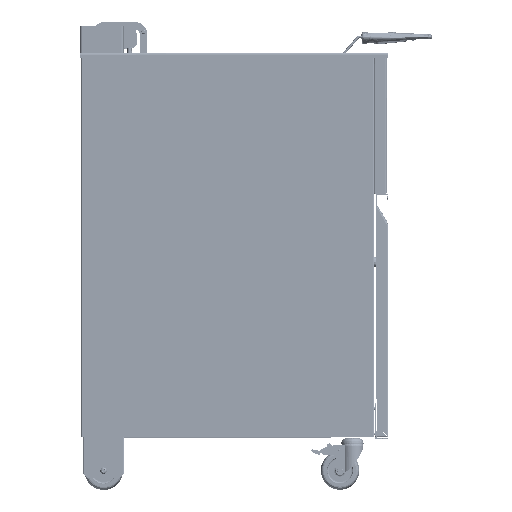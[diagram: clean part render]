
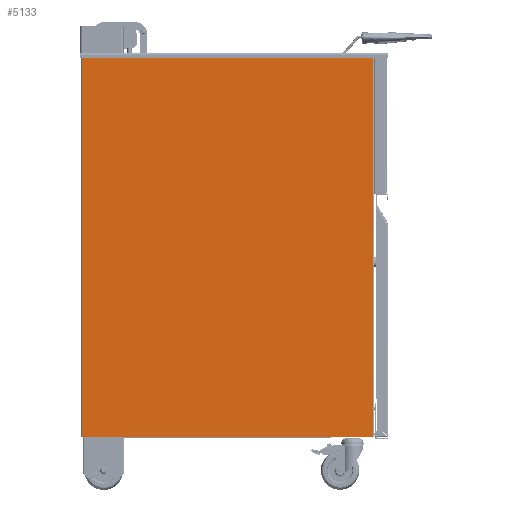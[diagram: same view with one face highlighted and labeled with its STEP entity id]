
A CAD part, left-side view. The second image highlights one B-rep face of the part: STEP entity #5133.
In plain terms, the highlighted planar face has unit normal (-1, 0, 0).
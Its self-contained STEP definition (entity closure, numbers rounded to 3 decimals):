
#5133=ADVANCED_FACE('',(#14773),#153039,.T.);
#14773=FACE_OUTER_BOUND('',#24714,.T.);
#24714=EDGE_LOOP('',(#46949,#46950,#46951,#46952,#46953,#46954,#46955,#46956,
#46957,#46958,#46959,#46960,#46961,#46962,#46963,#46964));
#46949=ORIENTED_EDGE('',*,*,#87727,.F.);
#46950=ORIENTED_EDGE('',*,*,#87728,.F.);
#46951=ORIENTED_EDGE('',*,*,#87729,.F.);
#46952=ORIENTED_EDGE('',*,*,#87730,.F.);
#46953=ORIENTED_EDGE('',*,*,#87731,.F.);
#46954=ORIENTED_EDGE('',*,*,#87732,.F.);
#46955=ORIENTED_EDGE('',*,*,#87733,.F.);
#46956=ORIENTED_EDGE('',*,*,#87734,.F.);
#46957=ORIENTED_EDGE('',*,*,#87735,.F.);
#46958=ORIENTED_EDGE('',*,*,#87736,.F.);
#46959=ORIENTED_EDGE('',*,*,#87737,.F.);
#46960=ORIENTED_EDGE('',*,*,#87738,.F.);
#46961=ORIENTED_EDGE('',*,*,#87739,.F.);
#46962=ORIENTED_EDGE('',*,*,#87740,.F.);
#46963=ORIENTED_EDGE('',*,*,#87741,.F.);
#46964=ORIENTED_EDGE('',*,*,#87726,.F.);
#87726=EDGE_CURVE('',#141459,#141460,#110137,.T.);
#87727=EDGE_CURVE('',#141461,#141459,#110138,.T.);
#87728=EDGE_CURVE('',#141462,#141461,#110139,.T.);
#87729=EDGE_CURVE('',#141463,#141462,#110140,.T.);
#87730=EDGE_CURVE('',#141464,#141463,#110141,.T.);
#87731=EDGE_CURVE('',#141465,#141464,#110142,.T.);
#87732=EDGE_CURVE('',#141466,#141465,#110143,.T.);
#87733=EDGE_CURVE('',#141467,#141466,#110144,.T.);
#87734=EDGE_CURVE('',#141468,#141467,#110145,.T.);
#87735=EDGE_CURVE('',#141469,#141468,#110146,.T.);
#87736=EDGE_CURVE('',#141470,#141469,#110147,.T.);
#87737=EDGE_CURVE('',#141471,#141470,#110148,.T.);
#87738=EDGE_CURVE('',#141472,#141471,#110149,.T.);
#87739=EDGE_CURVE('',#141473,#141472,#110150,.T.);
#87740=EDGE_CURVE('',#141474,#141473,#110151,.T.);
#87741=EDGE_CURVE('',#141460,#141474,#110152,.T.);
#110137=B_SPLINE_CURVE_WITH_KNOTS('',1,(#312341,#312342),.UNSPECIFIED.,
 .F.,.F.,(2,2),(-2.5,0.),.UNSPECIFIED.);
#110138=B_SPLINE_CURVE_WITH_KNOTS('',1,(#312343,#312344),.UNSPECIFIED.,
 .F.,.F.,(2,2),(-0.5,0.),.UNSPECIFIED.);
#110139=B_SPLINE_CURVE_WITH_KNOTS('',1,(#312345,#312346),.UNSPECIFIED.,
 .F.,.F.,(2,2),(-0.5,0.),.UNSPECIFIED.);
#110140=B_SPLINE_CURVE_WITH_KNOTS('',1,(#312347,#312348),.UNSPECIFIED.,
 .F.,.F.,(2,2),(-402.,0.),.UNSPECIFIED.);
#110141=B_SPLINE_CURVE_WITH_KNOTS('',1,(#312349,#312350),.UNSPECIFIED.,
 .F.,.F.,(2,2),(-0.5,0.),.UNSPECIFIED.);
#110142=B_SPLINE_CURVE_WITH_KNOTS('',1,(#312351,#312352),.UNSPECIFIED.,
 .F.,.F.,(2,2),(-0.5,0.),.UNSPECIFIED.);
#110143=B_SPLINE_CURVE_WITH_KNOTS('',1,(#312353,#312354),.UNSPECIFIED.,
 .F.,.F.,(2,2),(-2.5,0.),.UNSPECIFIED.);
#110144=B_SPLINE_CURVE_WITH_KNOTS('',1,(#312355,#312356),.UNSPECIFIED.,
 .F.,.F.,(2,2),(-81.335,0.),.UNSPECIFIED.);
#110145=B_SPLINE_CURVE_WITH_KNOTS('',1,(#312357,#312358),.UNSPECIFIED.,
 .F.,.F.,(2,2),(-744.8,0.),.UNSPECIFIED.);
#110146=B_SPLINE_CURVE_WITH_KNOTS('',1,(#312359,#312360),.UNSPECIFIED.,
 .F.,.F.,(2,2),(-81.835,0.),.UNSPECIFIED.);
#110147=B_SPLINE_CURVE_WITH_KNOTS('',1,(#312361,#312362),.UNSPECIFIED.,
 .F.,.F.,(2,2),(-0.2,0.),.UNSPECIFIED.);
#110148=B_SPLINE_CURVE_WITH_KNOTS('',1,(#312363,#312364),.UNSPECIFIED.,
 .F.,.F.,(2,2),(-402.,0.),.UNSPECIFIED.);
#110149=B_SPLINE_CURVE_WITH_KNOTS('',1,(#312365,#312366),.UNSPECIFIED.,
 .F.,.F.,(2,2),(-0.2,0.),.UNSPECIFIED.);
#110150=B_SPLINE_CURVE_WITH_KNOTS('',1,(#312367,#312368),.UNSPECIFIED.,
 .F.,.F.,(2,2),(-81.835,0.),.UNSPECIFIED.);
#110151=B_SPLINE_CURVE_WITH_KNOTS('',1,(#312369,#312370),.UNSPECIFIED.,
 .F.,.F.,(2,2),(-744.8,0.),.UNSPECIFIED.);
#110152=B_SPLINE_CURVE_WITH_KNOTS('',1,(#312371,#312372),.UNSPECIFIED.,
 .F.,.F.,(2,2),(-81.335,0.),.UNSPECIFIED.);
#141459=VERTEX_POINT('',#312017);
#141460=VERTEX_POINT('',#312018);
#141461=VERTEX_POINT('',#312019);
#141462=VERTEX_POINT('',#312020);
#141463=VERTEX_POINT('',#312021);
#141464=VERTEX_POINT('',#312022);
#141465=VERTEX_POINT('',#312023);
#141466=VERTEX_POINT('',#312024);
#141467=VERTEX_POINT('',#312025);
#141468=VERTEX_POINT('',#312026);
#141469=VERTEX_POINT('',#312027);
#141470=VERTEX_POINT('',#312028);
#141471=VERTEX_POINT('',#312029);
#141472=VERTEX_POINT('',#312030);
#141473=VERTEX_POINT('',#312031);
#141474=VERTEX_POINT('',#312032);
#153039=PLANE('',#164999);
#164999=AXIS2_PLACEMENT_3D('',#311760,#182571,$);
#182571=DIRECTION('',(-1.,0.,0.));
#311760=CARTESIAN_POINT('',(-197.,-339.427,28.));
#312017=CARTESIAN_POINT('',(-197.,-201.524,845.));
#312018=CARTESIAN_POINT('',(-197.,-201.524,847.5));
#312019=CARTESIAN_POINT('',(-197.,-201.024,845.));
#312020=CARTESIAN_POINT('',(-197.,-201.024,845.5));
#312021=CARTESIAN_POINT('',(-197.,200.976,845.5));
#312022=CARTESIAN_POINT('',(-197.,200.976,845.));
#312023=CARTESIAN_POINT('',(-197.,201.476,845.));
#312024=CARTESIAN_POINT('',(-197.,201.476,847.5));
#312025=CARTESIAN_POINT('',(-197.,282.811,847.5));
#312026=CARTESIAN_POINT('',(-197.,282.811,102.7));
#312027=CARTESIAN_POINT('',(-197.,200.976,102.7));
#312028=CARTESIAN_POINT('',(-197.,200.976,102.5));
#312029=CARTESIAN_POINT('',(-197.,-201.024,102.5));
#312030=CARTESIAN_POINT('',(-197.,-201.024,102.7));
#312031=CARTESIAN_POINT('',(-197.,-282.859,102.7));
#312032=CARTESIAN_POINT('',(-197.,-282.859,847.5));
#312341=CARTESIAN_POINT('',(-197.,-201.524,845.));
#312342=CARTESIAN_POINT('',(-197.,-201.524,847.5));
#312343=CARTESIAN_POINT('',(-197.,-201.024,845.));
#312344=CARTESIAN_POINT('',(-197.,-201.524,845.));
#312345=CARTESIAN_POINT('',(-197.,-201.024,845.5));
#312346=CARTESIAN_POINT('',(-197.,-201.024,845.));
#312347=CARTESIAN_POINT('',(-197.,200.976,845.5));
#312348=CARTESIAN_POINT('',(-197.,-201.024,845.5));
#312349=CARTESIAN_POINT('',(-197.,200.976,845.));
#312350=CARTESIAN_POINT('',(-197.,200.976,845.5));
#312351=CARTESIAN_POINT('',(-197.,201.476,845.));
#312352=CARTESIAN_POINT('',(-197.,200.976,845.));
#312353=CARTESIAN_POINT('',(-197.,201.476,847.5));
#312354=CARTESIAN_POINT('',(-197.,201.476,845.));
#312355=CARTESIAN_POINT('',(-197.,282.811,847.5));
#312356=CARTESIAN_POINT('',(-197.,201.476,847.5));
#312357=CARTESIAN_POINT('',(-197.,282.811,102.7));
#312358=CARTESIAN_POINT('',(-197.,282.811,847.5));
#312359=CARTESIAN_POINT('',(-197.,200.976,102.7));
#312360=CARTESIAN_POINT('',(-197.,282.811,102.7));
#312361=CARTESIAN_POINT('',(-197.,200.976,102.5));
#312362=CARTESIAN_POINT('',(-197.,200.976,102.7));
#312363=CARTESIAN_POINT('',(-197.,-201.024,102.5));
#312364=CARTESIAN_POINT('',(-197.,200.976,102.5));
#312365=CARTESIAN_POINT('',(-197.,-201.024,102.7));
#312366=CARTESIAN_POINT('',(-197.,-201.024,102.5));
#312367=CARTESIAN_POINT('',(-197.,-282.859,102.7));
#312368=CARTESIAN_POINT('',(-197.,-201.024,102.7));
#312369=CARTESIAN_POINT('',(-197.,-282.859,847.5));
#312370=CARTESIAN_POINT('',(-197.,-282.859,102.7));
#312371=CARTESIAN_POINT('',(-197.,-201.524,847.5));
#312372=CARTESIAN_POINT('',(-197.,-282.859,847.5));
